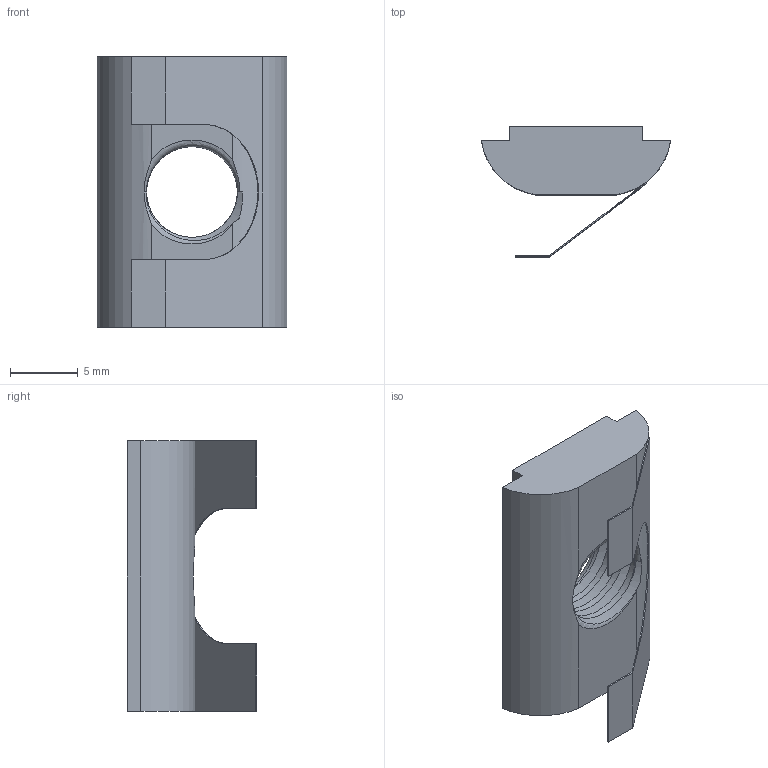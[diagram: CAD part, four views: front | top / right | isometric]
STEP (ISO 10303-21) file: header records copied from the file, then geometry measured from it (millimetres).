
FILE_DESCRIPTION (( 'STEP AP203' ), '1' );
FILE_NAME ('133-CE-LSN-45-M8.STEP', '2015-07-09T08:59:09', ( '' ), ( '' ), 'SwSTEP 2.0', 'SolidWorks 2013', '' );
FILE_SCHEMA (( 'CONFIG_CONTROL_DESIGN' ));
Length unit declared in the file: millimetre
Products named in the file (1): 133-CE-LSN-45-M8
Bounding box: 14 x 9.59 x 20 mm (x, y, z)
Volume: 953 mm3; surface area: 1157.8 mm2
Topology: 2 solids, 2 shells, 44 faces, 118 edges, 77 vertices
Faces by surface type: plane 24, cylinder 12, torus 6, bspline 2
Entity records: 1924 total; most frequent: CARTESIAN_POINT 807, ORIENTED_EDGE 236, DIRECTION 195, EDGE_CURVE 118, VERTEX_POINT 77, VECTOR 67, LINE 67, AXIS2_PLACEMENT_3D 64
